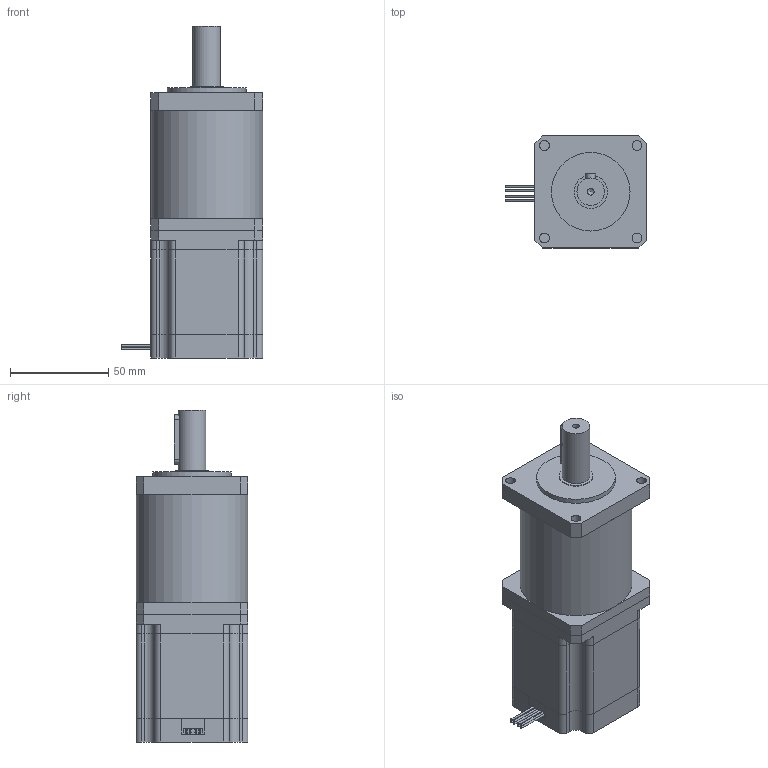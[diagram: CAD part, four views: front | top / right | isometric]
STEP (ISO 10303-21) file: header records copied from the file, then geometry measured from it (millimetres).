
FILE_DESCRIPTION(/* description */ (''),/* implementation_level */ '2;1');
FILE_NAME(/* name */ '57PG040-D44-0865.stp',/* time_stamp */ '2018-08-27T16:16:44+08:00',/* author */ (''),/* organization */ (''),/* preprocessor_version */ 'ST-DEVELOPER v11',/* originating_system */ 'SIEMENS UGS NX 6.0',/* authorisation */ '');
FILE_SCHEMA (('CONFIG_CONTROL_DESIGN'));
Length unit declared in the file: millimetre
Products named in the file (1): 57PG015-D44-0865
Bounding box: 72 x 57 x 169 mm (x, y, z)
Volume: 386179.8 mm3; surface area: 55762.2 mm2
Topology: 5 solids, 5 shells, 155 faces, 400 edges, 266 vertices
Faces by surface type: plane 99, cylinder 55, cone 1
Full cylindrical faces by diameter (mm): 1 x8, 3.5 x1, 5 x4, 14 x1, 17 x1, 40 x1, 57 x1
Entity records: 4652 total; most frequent: DIRECTION 800, CARTESIAN_POINT 785, ORIENTED_EDGE 744, EDGE_CURVE 372, AXIS2_PLACEMENT_3D 272, VERTEX_POINT 257, LINE 256, VECTOR 256
